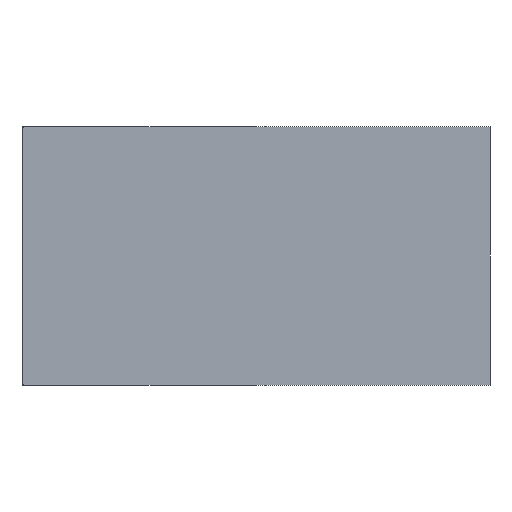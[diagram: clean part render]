
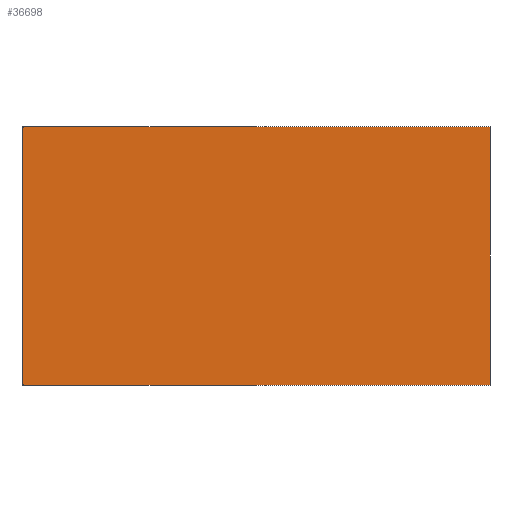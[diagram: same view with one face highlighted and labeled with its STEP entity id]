
A CAD part, left-side view. The second image highlights one B-rep face of the part: STEP entity #36698.
In plain terms, the highlighted planar face has unit normal (-1, 0, 0).
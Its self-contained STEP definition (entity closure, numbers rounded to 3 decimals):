
#36562=DIRECTION('',(0.,0.,-1.));
#36563=VECTOR('',#36562,425.233);
#36564=CARTESIAN_POINT('',(-1032.998,-389.569,
192.951));
#36565=LINE('',#36564,#36563);
#36566=DIRECTION('',(0.,-1.,0.));
#36567=VECTOR('',#36566,769.161);
#36568=CARTESIAN_POINT('',(-1032.998,379.592,
-232.281));
#36569=LINE('',#36568,#36567);
#36570=DIRECTION('',(0.,0.,-1.));
#36571=VECTOR('',#36570,425.233);
#36572=CARTESIAN_POINT('',(-1032.998,379.592,
192.951));
#36573=LINE('',#36572,#36571);
#36574=DIRECTION('',(0.,-1.,0.));
#36575=VECTOR('',#36574,769.161);
#36576=CARTESIAN_POINT('',(-1032.998,379.592,
192.951));
#36577=LINE('',#36576,#36575);
#36582=CARTESIAN_POINT('',(-1032.998,379.592,
192.951));
#36583=CARTESIAN_POINT('',(-1032.998,379.592,
-232.281));
#36584=VERTEX_POINT('',#36582);
#36585=VERTEX_POINT('',#36583);
#36586=CARTESIAN_POINT('',(-1032.998,-389.569,
192.951));
#36587=CARTESIAN_POINT('',(-1032.998,-389.569,
-232.281));
#36588=VERTEX_POINT('',#36586);
#36589=VERTEX_POINT('',#36587);
#36686=CARTESIAN_POINT('',(-1032.998,-832.5,380.));
#36687=DIRECTION('',(-1.,0.,0.));
#36688=DIRECTION('',(0.,1.,0.));
#36689=AXIS2_PLACEMENT_3D('',#36686,#36687,#36688);
#36690=PLANE('',#36689);
#36692=ORIENTED_EDGE('',*,*,#36691,.T.);
#36693=ORIENTED_EDGE('',*,*,#36663,.F.);
#36694=ORIENTED_EDGE('',*,*,#36680,.F.);
#36695=ORIENTED_EDGE('',*,*,#36634,.T.);
#36696=EDGE_LOOP('',(#36692,#36693,#36694,#36695));
#36697=FACE_OUTER_BOUND('',#36696,.F.);
#36634=EDGE_CURVE('',#36584,#36588,#36577,.T.);
#36663=EDGE_CURVE('',#36585,#36589,#36569,.T.);
#36680=EDGE_CURVE('',#36584,#36585,#36573,.T.);
#36691=EDGE_CURVE('',#36588,#36589,#36565,.T.);
#36698=ADVANCED_FACE('',(#36697),#36690,.T.);
